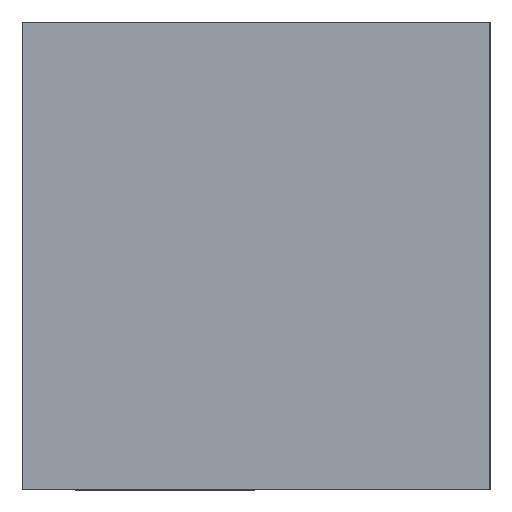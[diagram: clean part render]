
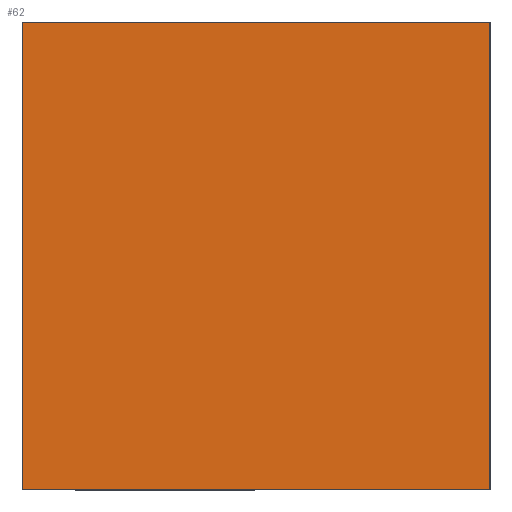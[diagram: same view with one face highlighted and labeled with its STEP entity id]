
A CAD part, left-side view. The second image highlights one B-rep face of the part: STEP entity #62.
In plain terms, the highlighted planar face has unit normal (-1, 0, 0).
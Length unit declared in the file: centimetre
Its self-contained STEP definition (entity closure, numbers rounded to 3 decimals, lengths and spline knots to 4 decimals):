
#45 = EDGE_LOOP ( 'NONE', ( #363, #1347, #648, #888 ) ) ;
#62 = ADVANCED_FACE ( 'NONE', ( #1343 ), #1231, .F. ) ;
#107 = LINE ( 'NONE', #936, #540 ) ;
#131 = CARTESIAN_POINT ( 'NONE',  ( 0., 1000., 1000. ) ) ;
#140 = EDGE_CURVE ( 'NONE', #828, #829, #598, .T. ) ;
#167 = CARTESIAN_POINT ( 'NONE',  ( 0., 0., 1000. ) ) ;
#249 = DIRECTION ( 'NONE',  ( 0., 0., -1. ) ) ;
#327 = VERTEX_POINT ( 'NONE', #167 ) ;
#363 = ORIENTED_EDGE ( 'NONE', *, *, #140, .T. ) ;
#454 = CARTESIAN_POINT ( 'NONE',  ( 0., 0., 0. ) ) ;
#464 = AXIS2_PLACEMENT_3D ( 'NONE', #893, #876, #1335 ) ;
#540 = VECTOR ( 'NONE', #1058, 100. ) ;
#551 = VERTEX_POINT ( 'NONE', #559 ) ;
#559 = CARTESIAN_POINT ( 'NONE',  ( 0., 1000., 1000. ) ) ;
#570 = EDGE_CURVE ( 'NONE', #551, #828, #795, .T. ) ;
#598 = LINE ( 'NONE', #714, #1140 ) ;
#636 = EDGE_CURVE ( 'NONE', #551, #327, #107, .T. ) ;
#648 = ORIENTED_EDGE ( 'NONE', *, *, #636, .F. ) ;
#714 = CARTESIAN_POINT ( 'NONE',  ( 0., 1000., 0. ) ) ;
#795 = LINE ( 'NONE', #131, #1214 ) ;
#828 = VERTEX_POINT ( 'NONE', #897 ) ;
#829 = VERTEX_POINT ( 'NONE', #454 ) ;
#876 = DIRECTION ( 'NONE',  ( 1., 0., 0. ) ) ;
#888 = ORIENTED_EDGE ( 'NONE', *, *, #570, .T. ) ;
#893 = CARTESIAN_POINT ( 'NONE',  ( 0., 1000., 1000. ) ) ;
#897 = CARTESIAN_POINT ( 'NONE',  ( 0., 1000., 0. ) ) ;
#936 = CARTESIAN_POINT ( 'NONE',  ( 0., 1000., 1000. ) ) ;
#1056 = DIRECTION ( 'NONE',  ( 0., 0., -1. ) ) ;
#1058 = DIRECTION ( 'NONE',  ( 0., -1., 0. ) ) ;
#1084 = EDGE_CURVE ( 'NONE', #327, #829, #1169, .T. ) ;
#1136 = VECTOR ( 'NONE', #1056, 100. ) ;
#1140 = VECTOR ( 'NONE', #1364, 100. ) ;
#1169 = LINE ( 'NONE', #1368, #1136 ) ;
#1214 = VECTOR ( 'NONE', #249, 100. ) ;
#1231 = PLANE ( 'NONE',  #464 ) ;
#1335 = DIRECTION ( 'NONE',  ( 0., 0., -1. ) ) ;
#1343 = FACE_OUTER_BOUND ( 'NONE', #45, .T. ) ;
#1347 = ORIENTED_EDGE ( 'NONE', *, *, #1084, .F. ) ;
#1364 = DIRECTION ( 'NONE',  ( 0., -1., 0. ) ) ;
#1368 = CARTESIAN_POINT ( 'NONE',  ( 0., 0., 1000. ) ) ;
